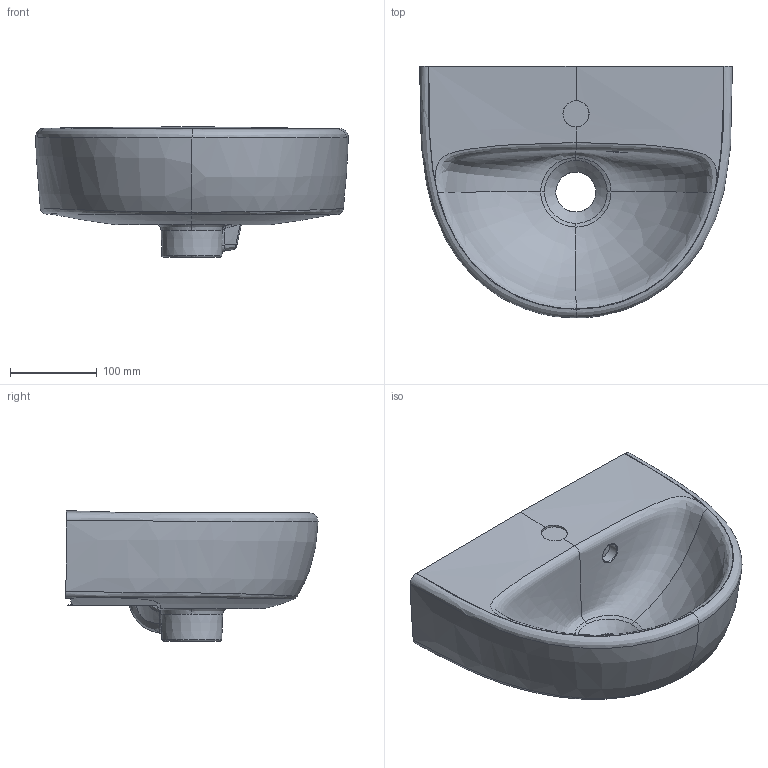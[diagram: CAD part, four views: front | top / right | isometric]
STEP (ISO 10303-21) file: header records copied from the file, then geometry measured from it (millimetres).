
FILE_DESCRIPTION(/* description */ (''),/* implementation_level */ '2;1');
FILE_NAME(/* name */ 'C:\Planerdaten\Export PLA\500.320.01.1\stp\500320.stp',/* time_stamp */ '2020-05-27T08:42:42+02:00',/* author */ ('seihe2'),/* organization */ (''),/* preprocessor_version */ 'ST-DEVELOPER v16.13',/* originating_system */ 'Autodesk Inventor 2018',/* authorisation */ '');
FILE_SCHEMA (('AUTOMOTIVE_DESIGN { 1 0 10303 214 3 1 1 }'));
Products named in the file (1): HWB Ge+Snv B36 m/ÜLF m/HLo
Bounding box: 360 x 290.16 x 150.35 mm (x, y, z)
Volume: 6073127.1 mm3; surface area: 324669.4 mm2
Topology: 1 solids, 1 shells, 111 faces, 282 edges, 175 vertices
Faces by surface type: bspline 79, plane 19, cylinder 10, cone 2, torus 1
Full cylindrical faces by diameter (mm): 30 x1
Entity records: 31973 total; most frequent: CARTESIAN_POINT 29581, ORIENTED_EDGE 558, DIRECTION 335, EDGE_CURVE 279, VERTEX_POINT 174, AXIS2_PLACEMENT_3D 136, EDGE_LOOP 117, STYLED_ITEM 112
